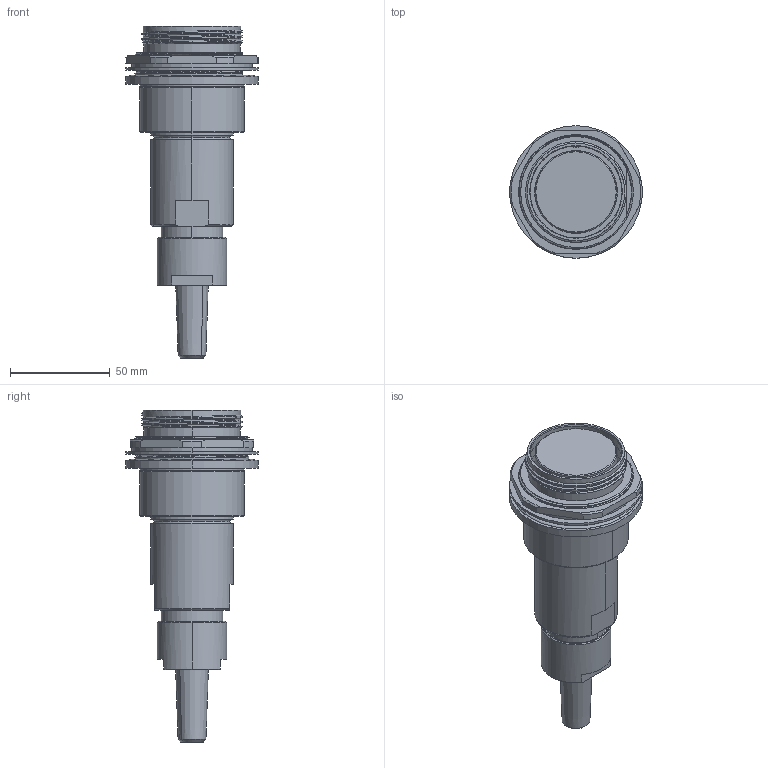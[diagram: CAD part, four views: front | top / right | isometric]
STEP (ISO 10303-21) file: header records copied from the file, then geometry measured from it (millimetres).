
FILE_DESCRIPTION (( 'STEP AP214' ), '1' );
FILE_NAME ('QLINK-RJTX-31XX-SXXX.STEP', '2025-09-30T22:14:16', ( '' ), ( '' ), 'SwSTEP 2.0', 'SolidWorks 2024', '' );
FILE_SCHEMA (( 'AUTOMOTIVE_DESIGN' ));
Length unit declared in the file: inch
Products named in the file (1): QLINK-RJTX-31XX-SXXX
Bounding box: 66.42 x 66.42 x 166.39 mm (x, y, z)
Volume: 208943.4 mm3; surface area: 43060.5 mm2
Topology: 2 solids, 2 shells, 219 faces, 557 edges, 358 vertices
Faces by surface type: cylinder 77, plane 45, cone 43, bspline 32, torus 22
Entity records: 15852 total; most frequent: CARTESIAN_POINT 10919, ORIENTED_EDGE 1114, DIRECTION 951, EDGE_CURVE 557, AXIS2_PLACEMENT_3D 397, VERTEX_POINT 358, EDGE_LOOP 243, FACE_OUTER_BOUND 219
